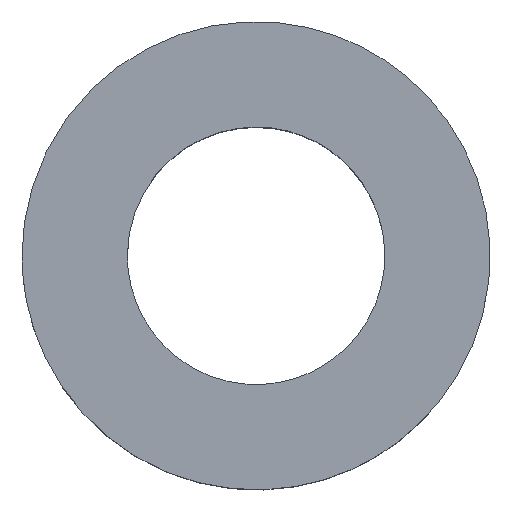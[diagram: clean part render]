
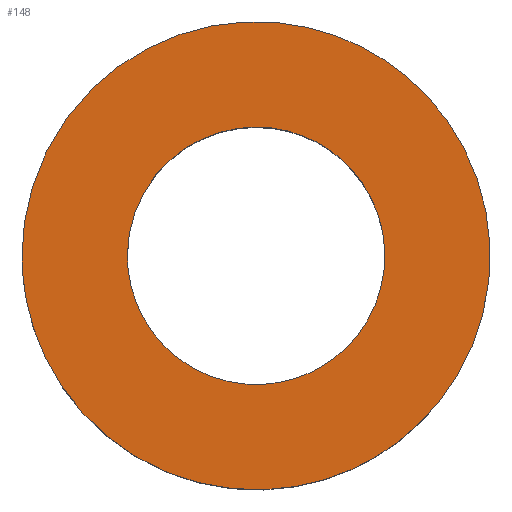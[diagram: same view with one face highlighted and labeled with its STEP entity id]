
A CAD part, top view. The second image highlights one B-rep face of the part: STEP entity #148.
In plain terms, the highlighted free-form (B-spline) face has degree [1, 1] with [2, 2] control points.
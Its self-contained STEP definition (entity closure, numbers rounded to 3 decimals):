
#115 = EDGE_CURVE('',#116,#116,#118,.T.);
#116 = VERTEX_POINT('',#117);
#117 = CARTESIAN_POINT('',(-3.,0.,2.));
#118 = ( BOUNDED_CURVE() B_SPLINE_CURVE(2,(#119,#120,#121,#122,#123,#124
,#125),.UNSPECIFIED.,.T.,.F.) B_SPLINE_CURVE_WITH_KNOTS((1,2,2,2,2,1),(
    -2.094,0.,2.094,4.189,6.283,
8.378),.UNSPECIFIED.) CURVE() GEOMETRIC_REPRESENTATION_ITEM() 
RATIONAL_B_SPLINE_CURVE((1.,0.5,1.,0.5,1.,0.5,1.)) REPRESENTATION_ITEM(
  '') );
#119 = CARTESIAN_POINT('',(-3.,0.,2.));
#120 = CARTESIAN_POINT('',(-3.,5.196,2.));
#121 = CARTESIAN_POINT('',(1.5,2.598,2.));
#122 = CARTESIAN_POINT('',(6.,0.,2.));
#123 = CARTESIAN_POINT('',(1.5,-2.598,2.));
#124 = CARTESIAN_POINT('',(-3.,-5.196,2.));
#125 = CARTESIAN_POINT('',(-3.,0.,2.));
#148 = ADVANCED_FACE('',(#149,#163),#166,.T.);
#149 = FACE_BOUND('',#150,.T.);
#150 = EDGE_LOOP('',(#151));
#151 = ORIENTED_EDGE('',*,*,#152,.T.);
#152 = EDGE_CURVE('',#153,#153,#155,.T.);
#153 = VERTEX_POINT('',#154);
#154 = CARTESIAN_POINT('',(-1.65,0.,2.));
#155 = ( BOUNDED_CURVE() B_SPLINE_CURVE(2,(#156,#157,#158,#159,#160,#161
,#162),.UNSPECIFIED.,.T.,.F.) B_SPLINE_CURVE_WITH_KNOTS((1,2,2,2,2,1),(
    -2.094,0.,2.094,4.189,6.283,
8.378),.UNSPECIFIED.) CURVE() GEOMETRIC_REPRESENTATION_ITEM() 
RATIONAL_B_SPLINE_CURVE((1.,0.5,1.,0.5,1.,0.5,1.)) REPRESENTATION_ITEM(
  '') );
#156 = CARTESIAN_POINT('',(-1.65,0.,2.));
#157 = CARTESIAN_POINT('',(-1.65,2.858,2.));
#158 = CARTESIAN_POINT('',(0.825,1.429,2.));
#159 = CARTESIAN_POINT('',(3.3,0.,2.));
#160 = CARTESIAN_POINT('',(0.825,-1.429,2.));
#161 = CARTESIAN_POINT('',(-1.65,-2.858,2.));
#162 = CARTESIAN_POINT('',(-1.65,0.,2.));
#163 = FACE_BOUND('',#164,.T.);
#164 = EDGE_LOOP('',(#165));
#165 = ORIENTED_EDGE('',*,*,#115,.F.);
#166 = B_SPLINE_SURFACE_WITH_KNOTS('',1,1,(
    (#167,#168)
    ,(#169,#170
  )),.UNSPECIFIED.,.F.,.F.,.F.,(2,2),(2,2),(0.,6.),(-3.,3.),
  .PIECEWISE_BEZIER_KNOTS.);
#167 = CARTESIAN_POINT('',(-3.,-3.,2.));
#168 = CARTESIAN_POINT('',(-3.,3.,2.));
#169 = CARTESIAN_POINT('',(3.,-3.,2.));
#170 = CARTESIAN_POINT('',(3.,3.,2.));
